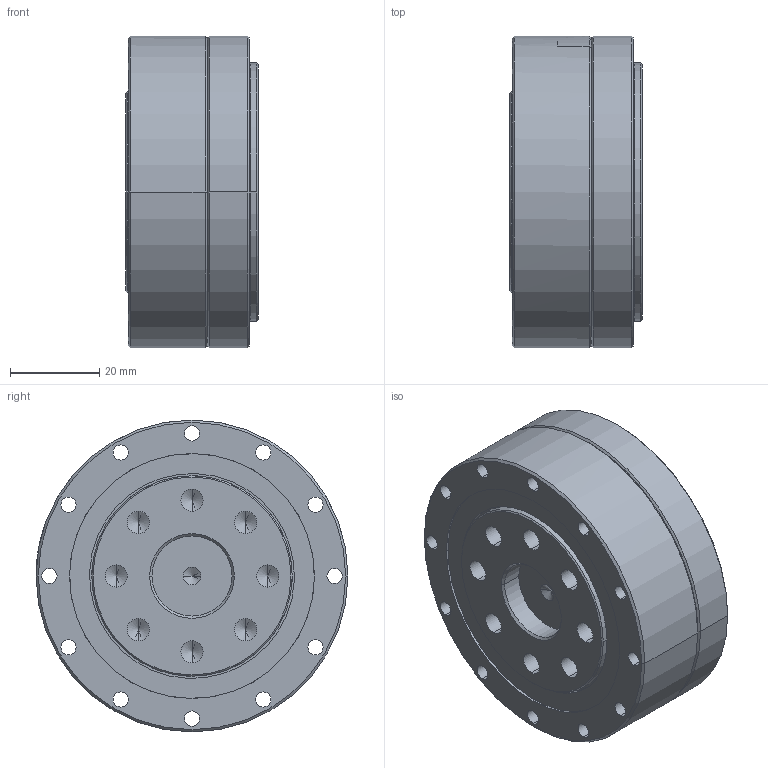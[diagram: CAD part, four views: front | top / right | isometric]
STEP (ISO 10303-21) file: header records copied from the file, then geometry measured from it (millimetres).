
FILE_DESCRIPTION (( 'STEP AP214' ), '1' );
FILE_NAME ('CSD-20-xxx.STEP', '2021-07-17T03:30:52', ( 'PC' ), ( 'Microsoft' ), 'SwSTEP 2.0', 'SolidWorks 2016', '' );
FILE_SCHEMA (( 'AUTOMOTIVE_DESIGN' ));
Length unit declared in the file: millimetre
Products named in the file (13): 20柔性轴承; 20-詩謫; 20-柔轮; CSD-20蝠脫粣創; 20-蝠脫粣創黑芛; 蝠脫粣創-蚐猾-CSF-20; 20-交叉轴承外圈; 20-交叉轴承内圈; CSD-20-xxx; 内六角圆柱头螺钉M2×6_預設; hexagon socket head cap screws gb_GB_FASTENER_SCREWS_HSHCS M4X8-N; CSD-20疏楷汜ん; 芧謫-STXB-20-050-CV0
Assembly tree (22 placements, depth 3):
  CSD-20-xxx
    CSD-20蝠脫粣創
      20-交叉轴承内圈
      20-交叉轴承外圈
      蝠脫粣創-蚐猾-CSF-20
      20-蝠脫粣創黑芛
    20-柔轮
    20-詩謫
    CSD-20疏楷汜ん
      20柔性轴承
      芧謫-STXB-20-050-CV0
    hexagon socket head cap screws gb_GB_FASTENER_SCREWS_HSHCS M4X8-N  x8
    内六角圆柱头螺钉M2×6_預設  x4
Bounding box: 29.7 x 70 x 70 mm (x, y, z)
Volume: 79270.6 mm3; surface area: 54353.1 mm2
Topology: 20 solids, 20 shells, 685 faces, 1583 edges, 948 vertices
Faces by surface type: cylinder 257, plane 210, cone 158, torus 38, bspline 22
Entity records: 16106 total; most frequent: CARTESIAN_POINT 4110, DIRECTION 2498, ORIENTED_EDGE 2022, AXIS2_PLACEMENT_3D 1045, EDGE_CURVE 1011, VERTEX_POINT 633, EDGE_LOOP 596, CIRCLE 578
